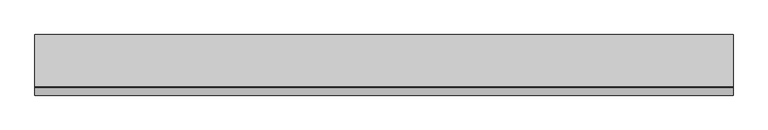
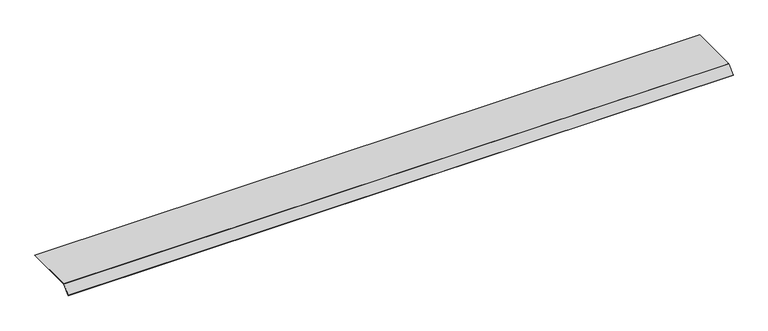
"""IFC4 building model written with IfcOpenShell, lengths in millimetres: proxy geometry, Electrical_Installation_Hager_Blank-Cover-800mm-Double-Sided-Extended-100-Height-70mm : Electrical_Installation_Hager_Blank-Cover-800mm-Double-Sided-Extended-100-Height-70mm."""

from ifc_helpers import new_model, si_unit, point, frame, frame_2d, origin, place, context, project, spatial, polyline, circle_curve, trimmed, segment, composite_curve, outline, extrude, source, transform, mapped, element, save


def electrical_fixtures_9ff76af0(model_context):
    return source(origin(), model_context, "Body", "SweptSolid", [
        extrude(outline(composite_curve([segment(polyline([(276.36328, 40.5), (276.36328, 37.5), (-174.8229541, 37.5)]), True, "CONTINUOUS"), segment(trimmed(circle_curve(frame_2d((-174.8229541, 36.0725733)), 1.4274267), [point((-174.8229541, 37.5))], [point((-175.8322972, 37.0819164))], True, "CARTESIAN"), True, "CONTINUOUS"), segment(polyline([(-175.8322972, 37.0819164), (-243.6627596, -30.7485461), (-245.78408, -28.6272257), (-177.8206472, 39.336207)]), True, "CONTINUOUS"), segment(trimmed(circle_curve(frame_2d((-175.0110025, 36.5265623)), 3.9734377), [point((-177.8206472, 39.336207))], [point((-175.0110025, 40.5))], False, "CARTESIAN"), True, "CONTINUOUS"), segment(polyline([(-175.0110025, 40.5), (276.36328, 40.5)]), True, "CONTINUOUS")], self_intersect=False)), frame((0.0, 0.0, 0.0), z_axis=(1.0, 0.0, 0.0), x_axis=(0.0, 1.0, 0.0)), (0.0, 0.0, 1.0), 6011.6956759),
    ])


if __name__ == "__main__":
    model = new_model("IFC4")
    model_context = context("Model", 3, world=origin())
    ifc_project = project(units=[si_unit("LENGTHUNIT", "METRE", prefix="MILLI")], contexts=[model_context])
    site = spatial("IfcSite", under=ifc_project)
    building = spatial("IfcBuilding", under=site)
    placement = place(None, origin())
    electrical_fixtures_shape = electrical_fixtures_9ff76af0(model_context)
    element("IfcBuildingElementProxy", 1, Name="Electrical_Installation_Hager_Blank-Cover-800mm-Double-Sided-Extended-100-Height-70mm : Electrical_Installation_Hager_Blank-Cover-800mm-Double-Sided-Extended-100-Height-70mm", ObjectType="Electrical_Installation_Hager_Blank-Cover-800mm-Double-Sided-Extended-100-Height-70mm : Electrical_Installation_Hager_Blank-Cover-800mm-Double-Sided-Extended-100-Height-70mm", at=placement, inside=building, context=model_context, shape_type="MappedRepresentation", body=[
        mapped(electrical_fixtures_shape, transform((0.0, 0.0, 0.0), x_axis=(1.0, 0.0, 0.0), y_axis=(0.0, 1.0, 0.0), z_axis=(0.0, 0.0, 1.0))),
    ])
    save(model, "model.ifc")
